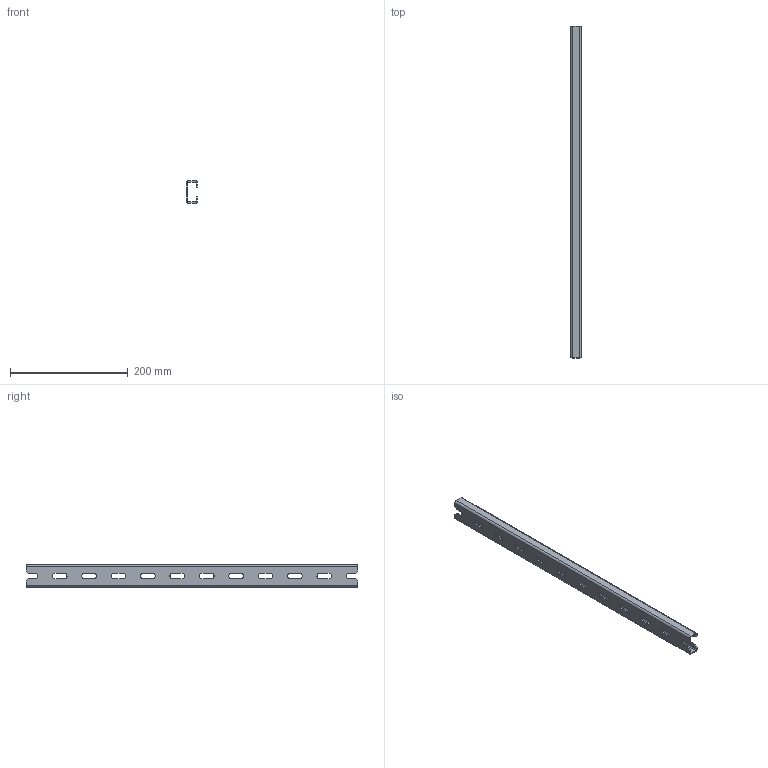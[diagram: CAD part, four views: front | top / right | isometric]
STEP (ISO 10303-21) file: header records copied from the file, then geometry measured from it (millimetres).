
FILE_DESCRIPTION (( 'STEP AP203' ), '1' );
FILE_NAME ('MG 60.04 C Òðàâåðñà ìîíòàæíàÿ.STEP', '2013-01-09T05:34:06', ( 'System' ), ( '' ), 'SwSTEP 2.0', 'SolidWorks 2012', '' );
FILE_SCHEMA (( 'CONFIG_CONTROL_DESIGN' ));
Length unit declared in the file: millimetre
Products named in the file (1): MG 60.04 C Òðàâåðñà ìîíòàæíàÿ
Bounding box: 18.5 x 564.5 x 38 mm (x, y, z)
Volume: 89549.7 mm3; surface area: 93453.1 mm2
Topology: 1 solids, 1 shells, 94 faces, 244 edges, 152 vertices
Faces by surface type: plane 64, cylinder 30
Entity records: 2949 total; most frequent: DIRECTION 494, CARTESIAN_POINT 491, ORIENTED_EDGE 488, EDGE_CURVE 244, LINE 184, VECTOR 184, AXIS2_PLACEMENT_3D 155, VERTEX_POINT 152
